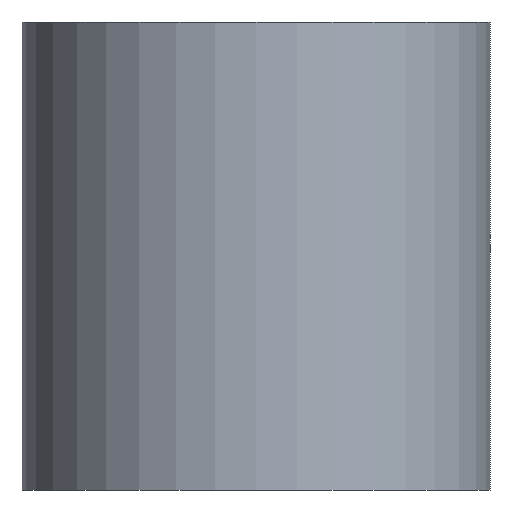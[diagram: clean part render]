
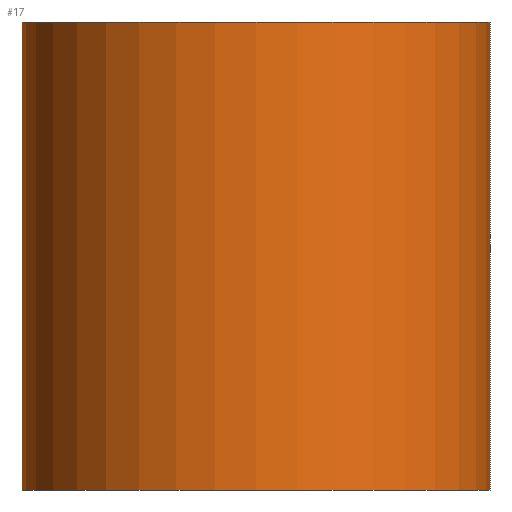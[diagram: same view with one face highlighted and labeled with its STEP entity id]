
A CAD part, front view. The second image highlights one B-rep face of the part: STEP entity #17.
In plain terms, the highlighted cylindrical face has radius 3 mm (diameter 6 mm), a full revolution.
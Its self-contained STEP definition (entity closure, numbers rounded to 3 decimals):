
#17 = ADVANCED_FACE('',(#18),#31,.T.);
#18 = FACE_BOUND('',#19,.T.);
#19 = EDGE_LOOP('',(#20,#54,#76,#103));
#20 = ORIENTED_EDGE('',*,*,#21,.F.);
#21 = EDGE_CURVE('',#22,#22,#24,.T.);
#22 = VERTEX_POINT('',#23);
#23 = CARTESIAN_POINT('',(-30.,-3.,82.));
#24 = SURFACE_CURVE('',#25,(#30,#42),.PCURVE_S1.);
#25 = CIRCLE('',#26,3.);
#26 = AXIS2_PLACEMENT_3D('',#27,#28,#29);
#27 = CARTESIAN_POINT('',(-33.,-3.,82.));
#28 = DIRECTION('',(0.,0.,1.));
#29 = DIRECTION('',(1.,0.,0.));
#30 = PCURVE('',#31,#36);
#31 = CYLINDRICAL_SURFACE('',#32,3.);
#32 = AXIS2_PLACEMENT_3D('',#33,#34,#35);
#33 = CARTESIAN_POINT('',(-33.,-3.,76.));
#34 = DIRECTION('',(0.,0.,1.));
#35 = DIRECTION('',(1.,0.,0.));
#36 = DEFINITIONAL_REPRESENTATION('',(#37),#41);
#37 = LINE('',#38,#39);
#38 = CARTESIAN_POINT('',(0.,6.));
#39 = VECTOR('',#40,1.);
#40 = DIRECTION('',(1.,0.));
#41 = ( GEOMETRIC_REPRESENTATION_CONTEXT(2) 
PARAMETRIC_REPRESENTATION_CONTEXT() REPRESENTATION_CONTEXT('2D SPACE',''
  ) );
#42 = PCURVE('',#43,#48);
#43 = PLANE('',#44);
#44 = AXIS2_PLACEMENT_3D('',#45,#46,#47);
#45 = CARTESIAN_POINT('',(-33.,-3.,82.));
#46 = DIRECTION('',(0.,0.,1.));
#47 = DIRECTION('',(1.,0.,0.));
#48 = DEFINITIONAL_REPRESENTATION('',(#49),#53);
#49 = CIRCLE('',#50,3.);
#50 = AXIS2_PLACEMENT_2D('',#51,#52);
#51 = CARTESIAN_POINT('',(0.,0.));
#52 = DIRECTION('',(1.,0.));
#53 = ( GEOMETRIC_REPRESENTATION_CONTEXT(2) 
PARAMETRIC_REPRESENTATION_CONTEXT() REPRESENTATION_CONTEXT('2D SPACE',''
  ) );
#54 = ORIENTED_EDGE('',*,*,#55,.F.);
#55 = EDGE_CURVE('',#56,#22,#58,.T.);
#56 = VERTEX_POINT('',#57);
#57 = CARTESIAN_POINT('',(-30.,-3.,76.));
#58 = SEAM_CURVE('',#59,(#62,#69),.PCURVE_S1.);
#59 = B_SPLINE_CURVE_WITH_KNOTS('',1,(#60,#61),.UNSPECIFIED.,.F.,.F.,(2,
    2),(0.,6.),.PIECEWISE_BEZIER_KNOTS.);
#60 = CARTESIAN_POINT('',(-30.,-3.,76.));
#61 = CARTESIAN_POINT('',(-30.,-3.,82.));
#62 = PCURVE('',#31,#63);
#63 = DEFINITIONAL_REPRESENTATION('',(#64),#68);
#64 = LINE('',#65,#66);
#65 = CARTESIAN_POINT('',(0.,0.));
#66 = VECTOR('',#67,1.);
#67 = DIRECTION('',(0.,1.));
#68 = ( GEOMETRIC_REPRESENTATION_CONTEXT(2) 
PARAMETRIC_REPRESENTATION_CONTEXT() REPRESENTATION_CONTEXT('2D SPACE',''
  ) );
#69 = PCURVE('',#31,#70);
#70 = DEFINITIONAL_REPRESENTATION('',(#71),#75);
#71 = LINE('',#72,#73);
#72 = CARTESIAN_POINT('',(6.283,0.));
#73 = VECTOR('',#74,1.);
#74 = DIRECTION('',(0.,1.));
#75 = ( GEOMETRIC_REPRESENTATION_CONTEXT(2) 
PARAMETRIC_REPRESENTATION_CONTEXT() REPRESENTATION_CONTEXT('2D SPACE',''
  ) );
#76 = ORIENTED_EDGE('',*,*,#77,.T.);
#77 = EDGE_CURVE('',#56,#56,#78,.T.);
#78 = SURFACE_CURVE('',#79,(#84,#91),.PCURVE_S1.);
#79 = CIRCLE('',#80,3.);
#80 = AXIS2_PLACEMENT_3D('',#81,#82,#83);
#81 = CARTESIAN_POINT('',(-33.,-3.,76.));
#82 = DIRECTION('',(0.,0.,1.));
#83 = DIRECTION('',(1.,0.,0.));
#84 = PCURVE('',#31,#85);
#85 = DEFINITIONAL_REPRESENTATION('',(#86),#90);
#86 = LINE('',#87,#88);
#87 = CARTESIAN_POINT('',(0.,0.));
#88 = VECTOR('',#89,1.);
#89 = DIRECTION('',(1.,0.));
#90 = ( GEOMETRIC_REPRESENTATION_CONTEXT(2) 
PARAMETRIC_REPRESENTATION_CONTEXT() REPRESENTATION_CONTEXT('2D SPACE',''
  ) );
#91 = PCURVE('',#92,#97);
#92 = PLANE('',#93);
#93 = AXIS2_PLACEMENT_3D('',#94,#95,#96);
#94 = CARTESIAN_POINT('',(-33.,-3.,76.));
#95 = DIRECTION('',(0.,0.,1.));
#96 = DIRECTION('',(1.,0.,0.));
#97 = DEFINITIONAL_REPRESENTATION('',(#98),#102);
#98 = CIRCLE('',#99,3.);
#99 = AXIS2_PLACEMENT_2D('',#100,#101);
#100 = CARTESIAN_POINT('',(0.,0.));
#101 = DIRECTION('',(1.,0.));
#102 = ( GEOMETRIC_REPRESENTATION_CONTEXT(2) 
PARAMETRIC_REPRESENTATION_CONTEXT() REPRESENTATION_CONTEXT('2D SPACE',''
  ) );
#103 = ORIENTED_EDGE('',*,*,#55,.T.);
